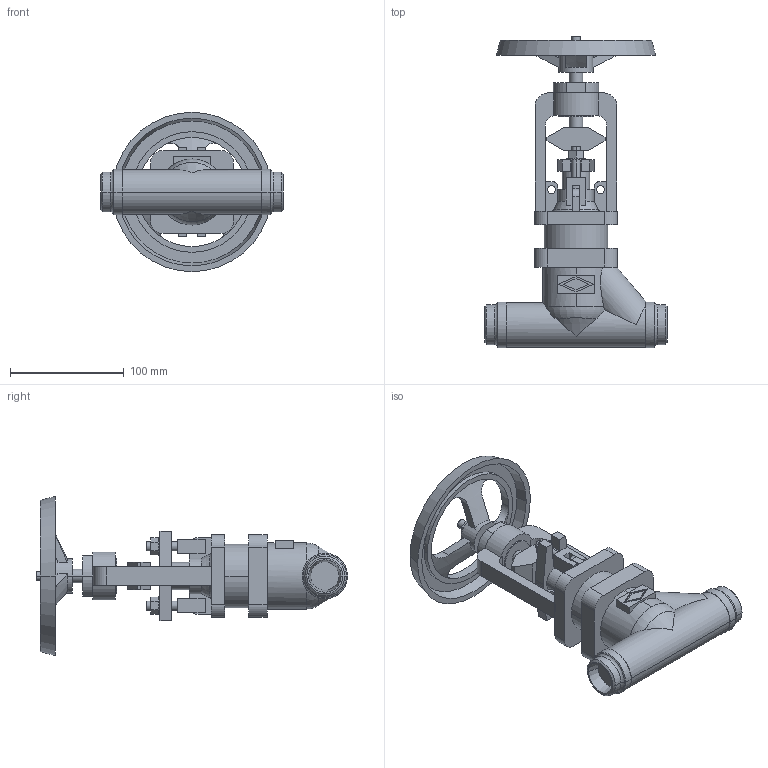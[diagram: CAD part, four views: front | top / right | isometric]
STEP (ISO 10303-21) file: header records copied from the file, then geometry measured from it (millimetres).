
FILE_DESCRIPTION(('OneSpaceDesigner STEP Export'),'2;1');
FILE_NAME('c000004310.stp','2010-05-06T 9:26:38',(''),(''),'OneSpace Designer STEP processor for AP214 (Solid Model)','OneSpace Modeling 15.50B 03-Nov-2007 (C) CoCreate Software GmbH','');
FILE_SCHEMA(('AUTOMOTIVE_DESIGN { 1 0 10303 214 1 1 1 1 }'));
Length unit declared in the file: millimetre
Products named in the file (1): 1
Bounding box: 160 x 273.37 x 140 mm (x, y, z)
Volume: 738660 mm3; surface area: 126952.8 mm2
Topology: 1 solids, 1 shells, 276 faces, 719 edges, 469 vertices
Faces by surface type: plane 146, cylinder 88, cone 32, torus 10
Entity records: 10601 total; most frequent: CARTESIAN_POINT 1877, ORIENTED_EDGE 1438, DIRECTION 1237, EDGE_CURVE 719, VERTEX_POINT 469, VECTOR 423, LINE 423, AXIS2_PLACEMENT_3D 407
